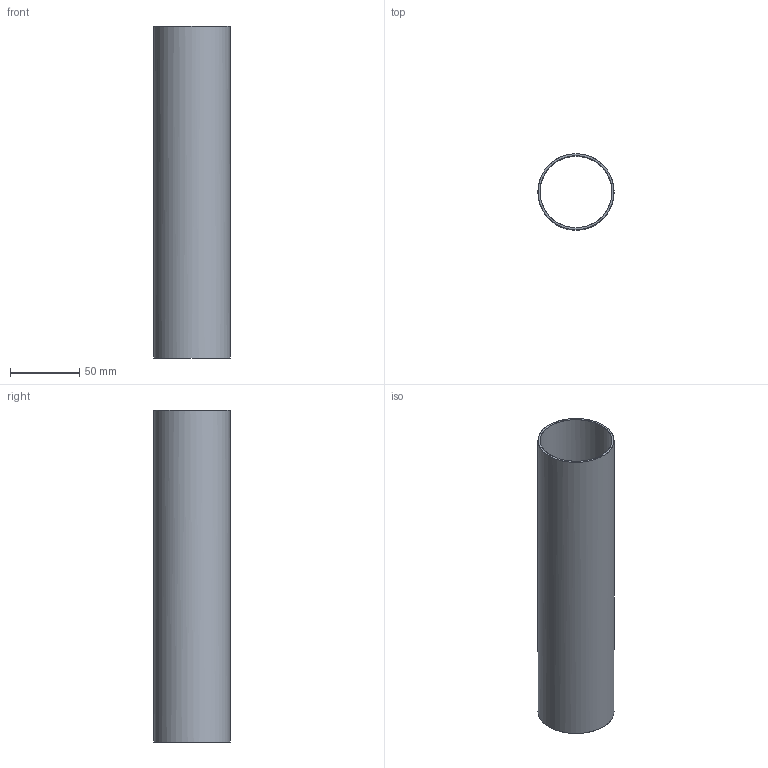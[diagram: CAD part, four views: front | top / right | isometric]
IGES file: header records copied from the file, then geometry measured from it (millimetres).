
Start section: SolidWorks IGES file using NURBS representation for surfaces
Global section: file name: Z:\Modele 3D_WWW\_CAMELEON\KLOSZE I OPRAWY WWW\Cameleon-Eye\Cameleon-EYE_M\EYE_M_8485_8483_8478_8476_8481\EYE_M_8485_8483_8478_8476_8481.IGS; native system: SolidWorks 2021; preprocessor: SolidWorks 2021; author: gabriela.tworek; date: 220311.082645; units: millimetre
Bounding box: 54.96 x 55 x 240 mm (x, y, z)
Surface area: 81335.9 mm2 (no closed solid volume)
Topology: 0 solids, 0 shells, 4 faces, 18 edges, 16 vertices
Faces by surface type: bspline 4
